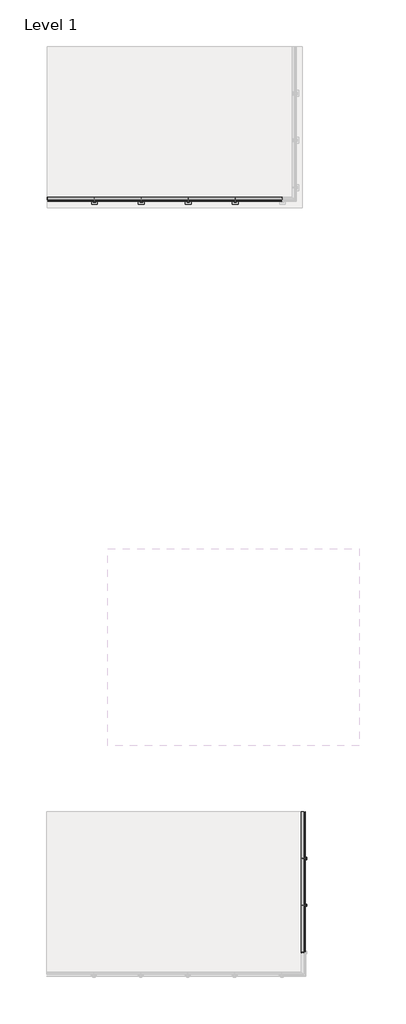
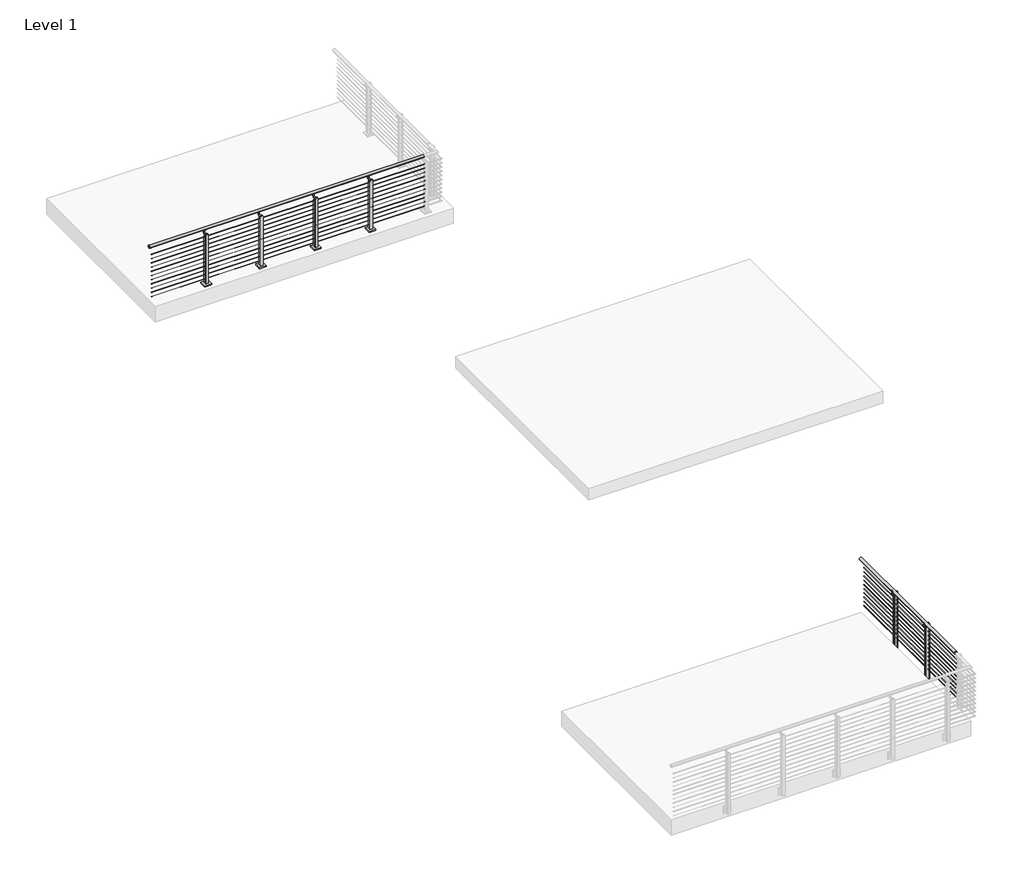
# One storey, part 3 of 9: 2 railings.
"""IFC4 building model written with IfcOpenShell, lengths in millimetres."""

from ifc_helpers import new_model, si_unit, point, frame, frame_2d, origin, origin_with_axes, place, context, project, spatial, polyline, circle_curve, trimmed, segment, composite_curve, outline, extrude, element, save
from ifc_brep_helpers import plane_surface, cylinder_surface, advanced_brep

model = new_model("IFC4")

# Units and contexts
model_context = context("Model", 3, world=origin())
ifc_project = project(units=[si_unit("LENGTHUNIT", "METRE", prefix="MILLI")], contexts=[model_context])

# Site, building, storey
site = spatial("IfcSite", under=ifc_project)
building = spatial("IfcBuilding", under=site)
storey = spatial("IfcBuildingStorey", under=building, Name="Level 1", Elevation=0.0)

# Railings
placement = place(None, origin())
element("IfcRailing", 1, ObjectType="VIVA-TEE-Cable-Fascia Mount-Straight", at=placement, inside=storey, context=model_context, shape_type="SolidModel", body=[
    advanced_brep(
    [(-4918.1482474, -56727.2334719, 1054.1), (-4968.9482474, -56727.2334719, 1054.1), (-4918.1482474, -56717.5042784, 1054.1), (-4968.9482474, -56717.5042784, 1054.1), (-4918.1482474, -53669.5042784, 1054.1), (-4968.9482474, -53669.5042784, 1054.1)],
    [
        (0, 1, circle_curve(frame((-4943.5482474, -56727.2334719, 1054.1), z_axis=(0.0, -1.0, 0.0), x_axis=(-1.0, 0.0, 0.0)), 25.4)),
        (1, 0, circle_curve(frame((-4943.5482474, -56727.2334719, 1054.1), z_axis=(0.0, -1.0, 0.0), x_axis=(-1.0, 0.0, 0.0)), 25.4)),
        (0, 2),
        (2, 3, circle_curve(frame((-4943.5482474, -56717.5042784, 1054.1), z_axis=(0.0, -1.0, 0.0), x_axis=(-1.0, 0.0, 0.0)), 25.4)),
        (3, 1),
        (3, 2, circle_curve(frame((-4943.5482474, -56717.5042784, 1054.1), z_axis=(0.0, -1.0, 0.0), x_axis=(-1.0, 0.0, 0.0)), 25.4)),
        (4, 5, circle_curve(frame((-4943.5482474, -53669.5042784, 1054.1), z_axis=(0.0, 1.0, 0.0), x_axis=(-1.0, 0.0, 0.0)), 25.4)),
        (5, 4, circle_curve(frame((-4943.5482474, -53669.5042784, 1054.1), z_axis=(0.0, 1.0, 0.0), x_axis=(-1.0, 0.0, 0.0)), 25.4)),
        (2, 4),
        (5, 3),
    ],
    [
        plane_surface(frame((-4943.5482474, -56727.2334719, 1079.5), z_axis=(0.0, -1.0, 0.0), x_axis=(0.0, 0.0, 1.0))),
        cylinder_surface(frame((-4943.5482474, -56727.2334719, 1054.1), z_axis=(0.0, -1.0, 0.0), x_axis=(-1.0, 0.0, 0.0)), 25.4),
        plane_surface(frame((-4943.5482474, -53669.5042784, 1079.5), z_axis=(0.0, 1.0, 0.0), x_axis=(0.0, 0.0, 1.0))),
        cylinder_surface(frame((-4943.5482474, -56717.5042784, 1054.1), z_axis=(0.0, -1.0, 0.0), x_axis=(-1.0, 0.0, 0.0)), 25.4),
    ],
    [
        (0, [[1, 2]]),
        (1, [[-1, 3, 4, 5]]),
        (1, [[-2, -5, 6, -3]]),
        (2, [[7, 8]]),
        (3, [[-4, 9, -8, 10]]),
        (3, [[-6, -10, -7, -9]]),
    ],
),
    extrude(outline(composite_curve([segment(trimmed(circle_curve(frame_2d((937.4124, -4882.5882474)), 2.3876), [point((937.4124, -4884.9758474))], [point((937.4124, -4880.2006474))], False, "CARTESIAN"), True, "CONTINUOUS"), segment(trimmed(circle_curve(frame_2d((937.4124, -4882.5882474)), 2.3876), [point((937.4124, -4880.2006474))], [point((937.4124, -4884.9758474))], False, "CARTESIAN"), True, "CONTINUOUS")], self_intersect=False)), frame((0.0, -56717.5042784, 0.0), z_axis=(0.0, 1.0, 0.0), x_axis=(0.0, 0.0, 1.0)), (0.0, 0.0, 1.0), 3048.0),
    extrude(outline(composite_curve([segment(trimmed(circle_curve(frame_2d((854.8624, -4882.5882474)), 2.3876), [point((854.8624, -4884.9758474))], [point((854.8624, -4880.2006474))], False, "CARTESIAN"), True, "CONTINUOUS"), segment(trimmed(circle_curve(frame_2d((854.8624, -4882.5882474)), 2.3876), [point((854.8624, -4880.2006474))], [point((854.8624, -4884.9758474))], False, "CARTESIAN"), True, "CONTINUOUS")], self_intersect=False)), frame((0.0, -56717.5042784, 0.0), z_axis=(0.0, 1.0, 0.0), x_axis=(0.0, 0.0, 1.0)), (0.0, 0.0, 1.0), 3048.0),
    extrude(outline(composite_curve([segment(trimmed(circle_curve(frame_2d((772.3124, -4882.5882474)), 2.3876), [point((772.3124, -4884.9758474))], [point((772.3124, -4880.2006474))], False, "CARTESIAN"), True, "CONTINUOUS"), segment(trimmed(circle_curve(frame_2d((772.3124, -4882.5882474)), 2.3876), [point((772.3124, -4880.2006474))], [point((772.3124, -4884.9758474))], False, "CARTESIAN"), True, "CONTINUOUS")], self_intersect=False)), frame((0.0, -56717.5042784, 0.0), z_axis=(0.0, 1.0, 0.0), x_axis=(0.0, 0.0, 1.0)), (0.0, 0.0, 1.0), 3048.0),
    extrude(outline(composite_curve([segment(trimmed(circle_curve(frame_2d((689.7624, -4882.5882474)), 2.3876), [point((689.7624, -4884.9758474))], [point((689.7624, -4880.2006474))], False, "CARTESIAN"), True, "CONTINUOUS"), segment(trimmed(circle_curve(frame_2d((689.7624, -4882.5882474)), 2.3876), [point((689.7624, -4880.2006474))], [point((689.7624, -4884.9758474))], False, "CARTESIAN"), True, "CONTINUOUS")], self_intersect=False)), frame((0.0, -56717.5042784, 0.0), z_axis=(0.0, 1.0, 0.0), x_axis=(0.0, 0.0, 1.0)), (0.0, 0.0, 1.0), 3048.0),
    extrude(outline(composite_curve([segment(trimmed(circle_curve(frame_2d((607.2124, -4882.5882474)), 2.3876), [point((607.2124, -4884.9758474))], [point((607.2124, -4880.2006474))], False, "CARTESIAN"), True, "CONTINUOUS"), segment(trimmed(circle_curve(frame_2d((607.2124, -4882.5882474)), 2.3876), [point((607.2124, -4880.2006474))], [point((607.2124, -4884.9758474))], False, "CARTESIAN"), True, "CONTINUOUS")], self_intersect=False)), frame((0.0, -56717.5042784, 0.0), z_axis=(0.0, 1.0, 0.0), x_axis=(0.0, 0.0, 1.0)), (0.0, 0.0, 1.0), 3048.0),
    extrude(outline(composite_curve([segment(trimmed(circle_curve(frame_2d((524.6624, -4882.5882474)), 2.3876), [point((524.6624, -4884.9758474))], [point((524.6624, -4880.2006474))], False, "CARTESIAN"), True, "CONTINUOUS"), segment(trimmed(circle_curve(frame_2d((524.6624, -4882.5882474)), 2.3876), [point((524.6624, -4880.2006474))], [point((524.6624, -4884.9758474))], False, "CARTESIAN"), True, "CONTINUOUS")], self_intersect=False)), frame((0.0, -56717.5042784, 0.0), z_axis=(0.0, 1.0, 0.0), x_axis=(0.0, 0.0, 1.0)), (0.0, 0.0, 1.0), 3048.0),
    extrude(outline(composite_curve([segment(trimmed(circle_curve(frame_2d((442.1124, -4882.5882474)), 2.3876), [point((442.1124, -4884.9758474))], [point((442.1124, -4880.2006474))], False, "CARTESIAN"), True, "CONTINUOUS"), segment(trimmed(circle_curve(frame_2d((442.1124, -4882.5882474)), 2.3876), [point((442.1124, -4880.2006474))], [point((442.1124, -4884.9758474))], False, "CARTESIAN"), True, "CONTINUOUS")], self_intersect=False)), frame((0.0, -56717.5042784, 0.0), z_axis=(0.0, 1.0, 0.0), x_axis=(0.0, 0.0, 1.0)), (0.0, 0.0, 1.0), 3048.0),
    extrude(outline(composite_curve([segment(trimmed(circle_curve(frame_2d((359.5624, -4882.5882474)), 2.3876), [point((359.5624, -4884.9758474))], [point((359.5624, -4880.2006474))], False, "CARTESIAN"), True, "CONTINUOUS"), segment(trimmed(circle_curve(frame_2d((359.5624, -4882.5882474)), 2.3876), [point((359.5624, -4880.2006474))], [point((359.5624, -4884.9758474))], False, "CARTESIAN"), True, "CONTINUOUS")], self_intersect=False)), frame((0.0, -56717.5042784, 0.0), z_axis=(0.0, 1.0, 0.0), x_axis=(0.0, 0.0, 1.0)), (0.0, 0.0, 1.0), 3048.0),
    extrude(outline(composite_curve([segment(trimmed(circle_curve(frame_2d((277.0124, -4882.5882474)), 2.3876), [point((277.0124, -4884.9758474))], [point((277.0124, -4880.2006474))], False, "CARTESIAN"), True, "CONTINUOUS"), segment(trimmed(circle_curve(frame_2d((277.0124, -4882.5882474)), 2.3876), [point((277.0124, -4880.2006474))], [point((277.0124, -4884.9758474))], False, "CARTESIAN"), True, "CONTINUOUS")], self_intersect=False)), frame((0.0, -56717.5042784, 0.0), z_axis=(0.0, 1.0, 0.0), x_axis=(0.0, 0.0, 1.0)), (0.0, 0.0, 1.0), 3048.0),
    extrude(outline(composite_curve([segment(trimmed(circle_curve(frame_2d((194.4624, -4882.5882474)), 2.3876), [point((194.4624, -4884.9758474))], [point((194.4624, -4880.2006474))], False, "CARTESIAN"), True, "CONTINUOUS"), segment(trimmed(circle_curve(frame_2d((194.4624, -4882.5882474)), 2.3876), [point((194.4624, -4880.2006474))], [point((194.4624, -4884.9758474))], False, "CARTESIAN"), True, "CONTINUOUS")], self_intersect=False)), frame((0.0, -56717.5042784, 0.0), z_axis=(0.0, 1.0, 0.0), x_axis=(0.0, 0.0, 1.0)), (0.0, 0.0, 1.0), 3048.0),
    extrude(outline(composite_curve([segment(trimmed(circle_curve(frame_2d((111.9124, -4882.5882474)), 2.3876), [point((111.9124, -4884.9758474))], [point((111.9124, -4880.2006474))], False, "CARTESIAN"), True, "CONTINUOUS"), segment(trimmed(circle_curve(frame_2d((111.9124, -4882.5882474)), 2.3876), [point((111.9124, -4880.2006474))], [point((111.9124, -4884.9758474))], False, "CARTESIAN"), True, "CONTINUOUS")], self_intersect=False)), frame((0.0, -56717.5042784, 0.0), z_axis=(0.0, 1.0, 0.0), x_axis=(0.0, 0.0, 1.0)), (0.0, 0.0, 1.0), 3048.0),
    extrude(outline(composite_curve([segment(trimmed(circle_curve(frame_2d((0.0, 7.0)), 7.0), [point((0.0, 14.0))], [point((0.0, 0.0))], False, "CARTESIAN"), True, "CONTINUOUS"), segment(trimmed(circle_curve(frame_2d((0.0, 7.0)), 7.0), [point((0.0, 0.0))], [point((0.0, 14.0))], False, "CARTESIAN"), True, "CONTINUOUS")], self_intersect=False)), frame((-4936.2033936, -54685.4305685, 949.1832524), z_axis=(0.0, 0.004253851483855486, 0.9999909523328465), x_axis=(0.0, 0.9999909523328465, -0.004253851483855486)), (0.0, 0.0, 1.0), 75.97),
    extrude(outline(composite_curve([segment(trimmed(circle_curve(frame_2d((1047.2025651, -4943.3447976)), 19.05), [point((1033.7916463, -4929.8152094))], [point((1033.7916463, -4956.8743858))], True, "CARTESIAN"), True, "CONTINUOUS"), segment(polyline([(1033.7916463, -4956.8743858), (1032.7742593, -4957.9007754)]), True, "CONTINUOUS"), segment(trimmed(circle_curve(frame_2d((1031.7089374, -4956.8447976)), 1.5), [point((1032.7742593, -4957.9007754))], [point((1030.5780156, -4957.8301991))], False, "CARTESIAN"), True, "CONTINUOUS"), segment(trimmed(circle_curve(frame_2d((1047.2025651, -4943.3447976)), 22.05), [point((1030.5780156, -4957.8301991))], [point((1030.5780156, -4928.8593961))], False, "CARTESIAN"), True, "CONTINUOUS"), segment(trimmed(circle_curve(frame_2d((1031.7089374, -4929.8447976)), 1.5), [point((1030.5780156, -4928.8593961))], [point((1032.7742593, -4928.7888197))], False, "CARTESIAN"), True, "CONTINUOUS"), segment(polyline([(1032.7742593, -4928.7888197), (1033.7916463, -4929.8152094)]), True, "CONTINUOUS")], self_intersect=False)), frame((0.0, -54720.9690427, 0.0), z_axis=(0.0, 1.0, 0.0), x_axis=(0.0, 0.0, 1.0)), (0.0, 0.0, 1.0), 74.5229187),
    extrude(outline(composite_curve([segment(trimmed(circle_curve(frame_2d((-54685.226238, 976.1259188)), 12.5), [point((-54697.726238, 976.1259188))], [point((-54672.726238, 976.1259188))], False, "CARTESIAN"), True, "CONTINUOUS"), segment(trimmed(circle_curve(frame_2d((-54685.226238, 976.1259188)), 12.5), [point((-54672.726238, 976.1259188))], [point((-54697.726238, 976.1259188))], False, "CARTESIAN"), True, "CONTINUOUS")], self_intersect=False)), frame((-4955.8604076, 0.0, 0.0), z_axis=(1.0, 0.0, 0.0), x_axis=(0.0, 1.0, 0.0)), (0.0, 0.0, 1.0), 92.423),
    extrude(outline(polyline([(-4933.3882474, -54621.6074034), (-4920.5057958, -54621.6074034), (-4920.5057958, -54748.6074034), (-4933.3882474, -54748.6074034), (-4933.3882474, -54621.6074034)])), frame((0.0, 0.0, -196.85), z_axis=(0.0, 0.0, 1.0), x_axis=(1.0, 0.0, 0.0)), (0.0, 0.0, 1.0), 127.0),
    extrude(outline(composite_curve([segment(trimmed(circle_curve(frame_2d((924.2425, -4889.6036989)), 24.765), [point((949.0075, -4889.6036989))], [point((924.2425, -4914.3686989))], False, "CARTESIAN"), True, "CONTINUOUS"), segment(polyline([(924.2425, -4914.3686989), (-196.85, -4914.3686989), (-196.85, -4863.5382474), (949.0075, -4863.5382474), (949.0075, -4889.6036989)]), True, "CONTINUOUS")], self_intersect=False)), frame((0.0, -54671.1039038, 0.0), z_axis=(0.0, 1.0, 0.0), x_axis=(0.0, 0.0, 1.0)), (0.0, 0.0, 1.0), 9.525),
    extrude(outline(polyline([(-4920.5057958, -54680.3449034), (-4920.5057958, -54621.6074034), (-4912.5682958, -54621.6074034), (-4912.5682958, -54672.4074034), (-4863.5382474, -54672.4074034), (-4863.5382474, -54680.3449034), (-4920.5057958, -54680.3449034)])), frame((0.0, 0.0, -196.85), z_axis=(0.0, 0.0, 1.0), x_axis=(1.0, 0.0, 0.0)), (0.0, 0.0, 1.0), 127.0),
    extrude(outline(polyline([(-4920.5057958, -54689.8699034), (-4863.5382474, -54689.8699034), (-4863.5382474, -54697.8074034), (-4912.5682958, -54697.8074034), (-4912.5682958, -54748.6074034), (-4920.5057958, -54748.6074034), (-4920.5057958, -54689.8699034)])), frame((0.0, 0.0, -196.85), z_axis=(0.0, 0.0, 1.0), x_axis=(1.0, 0.0, 0.0)), (0.0, 0.0, 1.0), 127.0),
    extrude(outline(composite_curve([segment(polyline([(-54659.7074034, -196.85), (-54710.5074034, -196.85), (-54710.5074034, 979.17)]), True, "CONTINUOUS"), segment(trimmed(circle_curve(frame_2d((-54685.1074034, 979.17)), 25.4), [point((-54710.5074034, 979.17))], [point((-54659.7074034, 979.17))], False, "CARTESIAN"), True, "CONTINUOUS"), segment(polyline([(-54659.7074034, 979.17), (-54659.7074034, -196.85)]), True, "CONTINUOUS")], self_intersect=False)), frame((-4863.5382474, 0.0, 0.0), z_axis=(1.0, 0.0, 0.0), x_axis=(0.0, 1.0, 0.0)), (0.0, 0.0, 1.0), 9.525),
    extrude(outline(composite_curve([segment(trimmed(circle_curve(frame_2d((924.2425, -4889.6036989)), 24.765), [point((949.0075, -4889.6036989))], [point((924.2425, -4914.3686989))], False, "CARTESIAN"), True, "CONTINUOUS"), segment(polyline([(924.2425, -4914.3686989), (-196.85, -4914.3686989), (-196.85, -4863.5382474), (949.0075, -4863.5382474), (949.0075, -4889.6036989)]), True, "CONTINUOUS")], self_intersect=False)), frame((0.0, -54708.635903, 0.0), z_axis=(0.0, 1.0, 0.0), x_axis=(0.0, 0.0, 1.0)), (0.0, 0.0, 1.0), 9.525),
    extrude(outline(composite_curve([segment(trimmed(circle_curve(frame_2d((0.0, 7.0)), 7.0), [point((0.0, 14.0))], [point((0.0, 0.0))], False, "CARTESIAN"), True, "CONTINUOUS"), segment(trimmed(circle_curve(frame_2d((0.0, 7.0)), 7.0), [point((0.0, 0.0))], [point((0.0, 14.0))], False, "CARTESIAN"), True, "CONTINUOUS")], self_intersect=False)), frame((-4936.2033936, -55701.4305685, 949.1832524), z_axis=(0.0, 0.004253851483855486, 0.9999909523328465), x_axis=(0.0, 0.9999909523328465, -0.004253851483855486)), (0.0, 0.0, 1.0), 75.97),
    extrude(outline(composite_curve([segment(trimmed(circle_curve(frame_2d((1047.2025651, -4943.3447976)), 19.05), [point((1033.7916463, -4929.8152094))], [point((1033.7916463, -4956.8743858))], True, "CARTESIAN"), True, "CONTINUOUS"), segment(polyline([(1033.7916463, -4956.8743858), (1032.7742593, -4957.9007754)]), True, "CONTINUOUS"), segment(trimmed(circle_curve(frame_2d((1031.7089374, -4956.8447976)), 1.5), [point((1032.7742593, -4957.9007754))], [point((1030.5780156, -4957.8301991))], False, "CARTESIAN"), True, "CONTINUOUS"), segment(trimmed(circle_curve(frame_2d((1047.2025651, -4943.3447976)), 22.05), [point((1030.5780156, -4957.8301991))], [point((1030.5780156, -4928.8593961))], False, "CARTESIAN"), True, "CONTINUOUS"), segment(trimmed(circle_curve(frame_2d((1031.7089374, -4929.8447976)), 1.5), [point((1030.5780156, -4928.8593961))], [point((1032.7742593, -4928.7888197))], False, "CARTESIAN"), True, "CONTINUOUS"), segment(polyline([(1032.7742593, -4928.7888197), (1033.7916463, -4929.8152094)]), True, "CONTINUOUS")], self_intersect=False)), frame((0.0, -55736.9690427, 0.0), z_axis=(0.0, 1.0, 0.0), x_axis=(0.0, 0.0, 1.0)), (0.0, 0.0, 1.0), 74.5229187),
    extrude(outline(composite_curve([segment(trimmed(circle_curve(frame_2d((-55701.226238, 976.1259188)), 12.5), [point((-55713.726238, 976.1259188))], [point((-55688.726238, 976.1259188))], False, "CARTESIAN"), True, "CONTINUOUS"), segment(trimmed(circle_curve(frame_2d((-55701.226238, 976.1259188)), 12.5), [point((-55688.726238, 976.1259188))], [point((-55713.726238, 976.1259188))], False, "CARTESIAN"), True, "CONTINUOUS")], self_intersect=False)), frame((-4955.8604076, 0.0, 0.0), z_axis=(1.0, 0.0, 0.0), x_axis=(0.0, 1.0, 0.0)), (0.0, 0.0, 1.0), 92.423),
    extrude(outline(polyline([(-4933.3882474, -55637.6074034), (-4920.5057958, -55637.6074034), (-4920.5057958, -55764.6074034), (-4933.3882474, -55764.6074034), (-4933.3882474, -55637.6074034)])), frame((0.0, 0.0, -196.85), z_axis=(0.0, 0.0, 1.0), x_axis=(1.0, 0.0, 0.0)), (0.0, 0.0, 1.0), 127.0),
    extrude(outline(composite_curve([segment(trimmed(circle_curve(frame_2d((924.2425, -4889.6036989)), 24.765), [point((949.0075, -4889.6036989))], [point((924.2425, -4914.3686989))], False, "CARTESIAN"), True, "CONTINUOUS"), segment(polyline([(924.2425, -4914.3686989), (-196.85, -4914.3686989), (-196.85, -4863.5382474), (949.0075, -4863.5382474), (949.0075, -4889.6036989)]), True, "CONTINUOUS")], self_intersect=False)), frame((0.0, -55687.1039038, 0.0), z_axis=(0.0, 1.0, 0.0), x_axis=(0.0, 0.0, 1.0)), (0.0, 0.0, 1.0), 9.525),
    extrude(outline(polyline([(-4920.5057958, -55696.3449034), (-4920.5057958, -55637.6074034), (-4912.5682958, -55637.6074034), (-4912.5682958, -55688.4074034), (-4863.5382474, -55688.4074034), (-4863.5382474, -55696.3449034), (-4920.5057958, -55696.3449034)])), frame((0.0, 0.0, -196.85), z_axis=(0.0, 0.0, 1.0), x_axis=(1.0, 0.0, 0.0)), (0.0, 0.0, 1.0), 127.0),
    extrude(outline(polyline([(-4920.5057958, -55705.8699034), (-4863.5382474, -55705.8699034), (-4863.5382474, -55713.8074034), (-4912.5682958, -55713.8074034), (-4912.5682958, -55764.6074034), (-4920.5057958, -55764.6074034), (-4920.5057958, -55705.8699034)])), frame((0.0, 0.0, -196.85), z_axis=(0.0, 0.0, 1.0), x_axis=(1.0, 0.0, 0.0)), (0.0, 0.0, 1.0), 127.0),
    extrude(outline(composite_curve([segment(polyline([(-55675.7074034, -196.85), (-55726.5074034, -196.85), (-55726.5074034, 979.17)]), True, "CONTINUOUS"), segment(trimmed(circle_curve(frame_2d((-55701.1074034, 979.17)), 25.4), [point((-55726.5074034, 979.17))], [point((-55675.7074034, 979.17))], False, "CARTESIAN"), True, "CONTINUOUS"), segment(polyline([(-55675.7074034, 979.17), (-55675.7074034, -196.85)]), True, "CONTINUOUS")], self_intersect=False)), frame((-4863.5382474, 0.0, 0.0), z_axis=(1.0, 0.0, 0.0), x_axis=(0.0, 1.0, 0.0)), (0.0, 0.0, 1.0), 9.525),
    extrude(outline(composite_curve([segment(trimmed(circle_curve(frame_2d((924.2425, -4889.6036989)), 24.765), [point((949.0075, -4889.6036989))], [point((924.2425, -4914.3686989))], False, "CARTESIAN"), True, "CONTINUOUS"), segment(polyline([(924.2425, -4914.3686989), (-196.85, -4914.3686989), (-196.85, -4863.5382474), (949.0075, -4863.5382474), (949.0075, -4889.6036989)]), True, "CONTINUOUS")], self_intersect=False)), frame((0.0, -55724.635903, 0.0), z_axis=(0.0, 1.0, 0.0), x_axis=(0.0, 0.0, 1.0)), (0.0, 0.0, 1.0), 9.525),
])
element("IfcRailing", 2, ObjectType="VIVA-TEE-Cable-Floor Mount-Straight", at=placement, inside=storey, context=model_context, shape_type="SolidModel", body=[
    advanced_brep(
    [(-5386.7436688, -40409.6476373, 1054.1), (-5386.7436688, -40358.8476373, 1054.1), (-10466.7436688, -40358.8476373, 1054.1), (-10466.7436688, -40409.6476373, 1054.1), (-10476.4728622, -40409.6476373, 1054.1), (-10476.4728622, -40358.8476373, 1054.1)],
    [
        (0, 1, circle_curve(frame((-5386.7436688, -40384.2476373, 1054.1), z_axis=(1.0, 0.0, 0.0), x_axis=(0.0, 1.0, 0.0)), 25.4)),
        (1, 0, circle_curve(frame((-5386.7436688, -40384.2476373, 1054.1), z_axis=(1.0, 0.0, 0.0), x_axis=(0.0, 1.0, 0.0)), 25.4)),
        (2, 3, circle_curve(frame((-10466.7436688, -40384.2476373, 1054.1), z_axis=(1.0, 0.0, 0.0), x_axis=(0.0, 1.0, 0.0)), 25.4)),
        (3, 0),
        (1, 2),
        (3, 2, circle_curve(frame((-10466.7436688, -40384.2476373, 1054.1), z_axis=(1.0, 0.0, 0.0), x_axis=(0.0, 1.0, 0.0)), 25.4)),
        (4, 5, circle_curve(frame((-10476.4728622, -40384.2476373, 1054.1), z_axis=(-1.0, 0.0, 0.0), x_axis=(0.0, 1.0, 0.0)), 25.4)),
        (5, 4, circle_curve(frame((-10476.4728622, -40384.2476373, 1054.1), z_axis=(-1.0, 0.0, 0.0), x_axis=(0.0, 1.0, 0.0)), 25.4)),
        (4, 3),
        (2, 5),
    ],
    [
        plane_surface(frame((-5386.7436688, -40384.2476373, 1079.5), z_axis=(1.0, 0.0, 0.0), x_axis=(0.0, 1.0, 0.0))),
        cylinder_surface(frame((-10466.7436688, -40384.2476373, 1054.1), z_axis=(-1.0, 0.0, 0.0), x_axis=(0.0, 1.0, 0.0)), 25.4),
        plane_surface(frame((-10476.4728622, -40384.2476373, 1079.5), z_axis=(-1.0, 0.0, 0.0), x_axis=(0.0, 1.0, 0.0))),
        cylinder_surface(frame((-10476.4728622, -40384.2476373, 1054.1), z_axis=(-1.0, 0.0, 0.0), x_axis=(0.0, 1.0, 0.0)), 25.4),
    ],
    [
        (0, [[1, 2]]),
        (1, [[3, 4, -2, 5]]),
        (1, [[6, -5, -1, -4]]),
        (2, [[7, 8]]),
        (3, [[-7, 9, -3, 10]]),
        (3, [[-8, -10, -6, -9]]),
    ],
),
    extrude(outline(composite_curve([segment(trimmed(circle_curve(frame_2d((-40444.5726373, 937.4124)), 2.3876), [point((-40442.1850373, 937.4124))], [point((-40446.9602373, 937.4124))], False, "CARTESIAN"), True, "CONTINUOUS"), segment(trimmed(circle_curve(frame_2d((-40444.5726373, 937.4124)), 2.3876), [point((-40446.9602373, 937.4124))], [point((-40442.1850373, 937.4124))], False, "CARTESIAN"), True, "CONTINUOUS")], self_intersect=False)), frame((-10466.7436688, 0.0, 0.0), z_axis=(1.0, 0.0, 0.0), x_axis=(0.0, 1.0, 0.0)), (0.0, 0.0, 1.0), 5080.0),
    extrude(outline(composite_curve([segment(trimmed(circle_curve(frame_2d((-40444.5726373, 854.8624)), 2.3876), [point((-40442.1850373, 854.8624))], [point((-40446.9602373, 854.8624))], False, "CARTESIAN"), True, "CONTINUOUS"), segment(trimmed(circle_curve(frame_2d((-40444.5726373, 854.8624)), 2.3876), [point((-40446.9602373, 854.8624))], [point((-40442.1850373, 854.8624))], False, "CARTESIAN"), True, "CONTINUOUS")], self_intersect=False)), frame((-10466.7436688, 0.0, 0.0), z_axis=(1.0, 0.0, 0.0), x_axis=(0.0, 1.0, 0.0)), (0.0, 0.0, 1.0), 5080.0),
    extrude(outline(composite_curve([segment(trimmed(circle_curve(frame_2d((-40444.5726373, 772.3124)), 2.3876), [point((-40442.1850373, 772.3124))], [point((-40446.9602373, 772.3124))], False, "CARTESIAN"), True, "CONTINUOUS"), segment(trimmed(circle_curve(frame_2d((-40444.5726373, 772.3124)), 2.3876), [point((-40446.9602373, 772.3124))], [point((-40442.1850373, 772.3124))], False, "CARTESIAN"), True, "CONTINUOUS")], self_intersect=False)), frame((-10466.7436688, 0.0, 0.0), z_axis=(1.0, 0.0, 0.0), x_axis=(0.0, 1.0, 0.0)), (0.0, 0.0, 1.0), 5080.0),
    extrude(outline(composite_curve([segment(trimmed(circle_curve(frame_2d((-40444.5726373, 689.7624)), 2.3876), [point((-40442.1850373, 689.7624))], [point((-40446.9602373, 689.7624))], False, "CARTESIAN"), True, "CONTINUOUS"), segment(trimmed(circle_curve(frame_2d((-40444.5726373, 689.7624)), 2.3876), [point((-40446.9602373, 689.7624))], [point((-40442.1850373, 689.7624))], False, "CARTESIAN"), True, "CONTINUOUS")], self_intersect=False)), frame((-10466.7436688, 0.0, 0.0), z_axis=(1.0, 0.0, 0.0), x_axis=(0.0, 1.0, 0.0)), (0.0, 0.0, 1.0), 5080.0),
    extrude(outline(composite_curve([segment(trimmed(circle_curve(frame_2d((-40444.5726373, 607.2124)), 2.3876), [point((-40442.1850373, 607.2124))], [point((-40446.9602373, 607.2124))], False, "CARTESIAN"), True, "CONTINUOUS"), segment(trimmed(circle_curve(frame_2d((-40444.5726373, 607.2124)), 2.3876), [point((-40446.9602373, 607.2124))], [point((-40442.1850373, 607.2124))], False, "CARTESIAN"), True, "CONTINUOUS")], self_intersect=False)), frame((-10466.7436688, 0.0, 0.0), z_axis=(1.0, 0.0, 0.0), x_axis=(0.0, 1.0, 0.0)), (0.0, 0.0, 1.0), 5080.0),
    extrude(outline(composite_curve([segment(trimmed(circle_curve(frame_2d((-40444.5726373, 524.6624)), 2.3876), [point((-40442.1850373, 524.6624))], [point((-40446.9602373, 524.6624))], False, "CARTESIAN"), True, "CONTINUOUS"), segment(trimmed(circle_curve(frame_2d((-40444.5726373, 524.6624)), 2.3876), [point((-40446.9602373, 524.6624))], [point((-40442.1850373, 524.6624))], False, "CARTESIAN"), True, "CONTINUOUS")], self_intersect=False)), frame((-10466.7436688, 0.0, 0.0), z_axis=(1.0, 0.0, 0.0), x_axis=(0.0, 1.0, 0.0)), (0.0, 0.0, 1.0), 5080.0),
    extrude(outline(composite_curve([segment(trimmed(circle_curve(frame_2d((-40444.5726373, 442.1124)), 2.3876), [point((-40442.1850373, 442.1124))], [point((-40446.9602373, 442.1124))], False, "CARTESIAN"), True, "CONTINUOUS"), segment(trimmed(circle_curve(frame_2d((-40444.5726373, 442.1124)), 2.3876), [point((-40446.9602373, 442.1124))], [point((-40442.1850373, 442.1124))], False, "CARTESIAN"), True, "CONTINUOUS")], self_intersect=False)), frame((-10466.7436688, 0.0, 0.0), z_axis=(1.0, 0.0, 0.0), x_axis=(0.0, 1.0, 0.0)), (0.0, 0.0, 1.0), 5080.0),
    extrude(outline(composite_curve([segment(trimmed(circle_curve(frame_2d((-40444.5726373, 359.5624)), 2.3876), [point((-40442.1850373, 359.5624))], [point((-40446.9602373, 359.5624))], False, "CARTESIAN"), True, "CONTINUOUS"), segment(trimmed(circle_curve(frame_2d((-40444.5726373, 359.5624)), 2.3876), [point((-40446.9602373, 359.5624))], [point((-40442.1850373, 359.5624))], False, "CARTESIAN"), True, "CONTINUOUS")], self_intersect=False)), frame((-10466.7436688, 0.0, 0.0), z_axis=(1.0, 0.0, 0.0), x_axis=(0.0, 1.0, 0.0)), (0.0, 0.0, 1.0), 5080.0),
    extrude(outline(composite_curve([segment(trimmed(circle_curve(frame_2d((-40444.5726373, 277.0124)), 2.3876), [point((-40442.1850373, 277.0124))], [point((-40446.9602373, 277.0124))], False, "CARTESIAN"), True, "CONTINUOUS"), segment(trimmed(circle_curve(frame_2d((-40444.5726373, 277.0124)), 2.3876), [point((-40446.9602373, 277.0124))], [point((-40442.1850373, 277.0124))], False, "CARTESIAN"), True, "CONTINUOUS")], self_intersect=False)), frame((-10466.7436688, 0.0, 0.0), z_axis=(1.0, 0.0, 0.0), x_axis=(0.0, 1.0, 0.0)), (0.0, 0.0, 1.0), 5080.0),
    extrude(outline(composite_curve([segment(trimmed(circle_curve(frame_2d((-40444.5726373, 194.4624)), 2.3876), [point((-40442.1850373, 194.4624))], [point((-40446.9602373, 194.4624))], False, "CARTESIAN"), True, "CONTINUOUS"), segment(trimmed(circle_curve(frame_2d((-40444.5726373, 194.4624)), 2.3876), [point((-40446.9602373, 194.4624))], [point((-40442.1850373, 194.4624))], False, "CARTESIAN"), True, "CONTINUOUS")], self_intersect=False)), frame((-10466.7436688, 0.0, 0.0), z_axis=(1.0, 0.0, 0.0), x_axis=(0.0, 1.0, 0.0)), (0.0, 0.0, 1.0), 5080.0),
    extrude(outline(composite_curve([segment(trimmed(circle_curve(frame_2d((-40444.5726373, 111.9124)), 2.3876), [point((-40442.1850373, 111.9124))], [point((-40446.9602373, 111.9124))], False, "CARTESIAN"), True, "CONTINUOUS"), segment(trimmed(circle_curve(frame_2d((-40444.5726373, 111.9124)), 2.3876), [point((-40446.9602373, 111.9124))], [point((-40442.1850373, 111.9124))], False, "CARTESIAN"), True, "CONTINUOUS")], self_intersect=False)), frame((-10466.7436688, 0.0, 0.0), z_axis=(1.0, 0.0, 0.0), x_axis=(0.0, 1.0, 0.0)), (0.0, 0.0, 1.0), 5080.0),
    extrude(outline(composite_curve([segment(trimmed(circle_curve(frame_2d((0.0, 7.0)), 7.0), [point((0.0, 14.0))], [point((0.0, 0.0))], False, "CARTESIAN"), True, "CONTINUOUS"), segment(trimmed(circle_curve(frame_2d((0.0, 7.0)), 7.0), [point((0.0, 0.0))], [point((0.0, 14.0))], False, "CARTESIAN"), True, "CONTINUOUS")], self_intersect=False)), frame((-6402.6699589, -40390.9574911, 949.1832524), z_axis=(0.004253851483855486, 0.0, 0.9999909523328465), x_axis=(0.9999909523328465, 0.0, -0.004253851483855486)), (0.0, 0.0, 1.0), 75.97),
    extrude(outline(composite_curve([segment(trimmed(circle_curve(frame_2d((-40383.8160871, 1047.2025651)), 19.05), [point((-40397.3456753, 1033.7916463))], [point((-40370.2864988, 1033.7916463))], True, "CARTESIAN"), True, "CONTINUOUS"), segment(polyline([(-40370.2864988, 1033.7916463), (-40369.2601092, 1032.7742593)]), True, "CONTINUOUS"), segment(trimmed(circle_curve(frame_2d((-40370.3160871, 1031.7089374)), 1.5), [point((-40369.2601092, 1032.7742593))], [point((-40369.3306856, 1030.5780156))], False, "CARTESIAN"), True, "CONTINUOUS"), segment(trimmed(circle_curve(frame_2d((-40383.8160871, 1047.2025651)), 22.05), [point((-40369.3306856, 1030.5780156))], [point((-40398.3014885, 1030.5780156))], False, "CARTESIAN"), True, "CONTINUOUS"), segment(trimmed(circle_curve(frame_2d((-40397.3160871, 1031.7089374)), 1.5), [point((-40398.3014885, 1030.5780156))], [point((-40398.3720649, 1032.7742593))], False, "CARTESIAN"), True, "CONTINUOUS"), segment(polyline([(-40398.3720649, 1032.7742593), (-40397.3456753, 1033.7916463)]), True, "CONTINUOUS")], self_intersect=False)), frame((-6438.208433, 0.0, 0.0), z_axis=(1.0, 0.0, 0.0), x_axis=(0.0, 1.0, 0.0)), (0.0, 0.0, 1.0), 74.5229187),
    extrude(outline(composite_curve([segment(trimmed(circle_curve(frame_2d((976.1259188, -6402.4656284)), 12.5), [point((976.1259188, -6414.9656284))], [point((976.1259188, -6389.9656284))], False, "CARTESIAN"), True, "CONTINUOUS"), segment(trimmed(circle_curve(frame_2d((976.1259188, -6402.4656284)), 12.5), [point((976.1259188, -6389.9656284))], [point((976.1259188, -6414.9656284))], False, "CARTESIAN"), True, "CONTINUOUS")], self_intersect=False)), frame((0.0, -40463.723477, 0.0), z_axis=(0.0, 1.0, 0.0), x_axis=(0.0, 0.0, 1.0)), (0.0, 0.0, 1.0), 92.423),
    extrude(outline(polyline([(-6338.8467938, -40381.0726373), (-6338.8467938, -40508.0726373), (-6465.8467938, -40508.0726373), (-6465.8467938, -40381.0726373), (-6338.8467938, -40381.0726373)])), origin_with_axes(), (0.0, 0.0, 1.0), 25.4),
    extrude(outline(composite_curve([segment(trimmed(circle_curve(frame_2d((-40437.5571858, 924.2425)), 24.765), [point((-40437.5571858, 949.0075))], [point((-40412.7921858, 924.2425))], False, "CARTESIAN"), True, "CONTINUOUS"), segment(polyline([(-40412.7921858, 924.2425), (-40412.7921858, 25.4), (-40463.6226373, 25.4), (-40463.6226373, 949.0075), (-40437.5571858, 949.0075)]), True, "CONTINUOUS")], self_intersect=False)), frame((-6388.3432942, 0.0, 0.0), z_axis=(1.0, 0.0, 0.0), x_axis=(0.0, 1.0, 0.0)), (0.0, 0.0, 1.0), 9.525),
    extrude(outline(composite_curve([segment(polyline([(25.4, -6376.9467938), (979.17, -6376.9467938)]), True, "CONTINUOUS"), segment(trimmed(circle_curve(frame_2d((979.17, -6402.3467938)), 25.4), [point((979.17, -6376.9467938))], [point((979.17, -6427.7467938))], False, "CARTESIAN"), True, "CONTINUOUS"), segment(polyline([(979.17, -6427.7467938), (25.4, -6427.7467938), (25.4, -6376.9467938)]), True, "CONTINUOUS")], self_intersect=False)), frame((0.0, -40473.1476373, 0.0), z_axis=(0.0, 1.0, 0.0), x_axis=(0.0, 0.0, 1.0)), (0.0, 0.0, 1.0), 9.525),
    extrude(outline(composite_curve([segment(trimmed(circle_curve(frame_2d((-40437.5571858, 924.2425)), 24.765), [point((-40437.5571858, 949.0075))], [point((-40412.7921858, 924.2425))], False, "CARTESIAN"), True, "CONTINUOUS"), segment(polyline([(-40412.7921858, 924.2425), (-40412.7921858, 25.4), (-40463.6226373, 25.4), (-40463.6226373, 949.0075), (-40437.5571858, 949.0075)]), True, "CONTINUOUS")], self_intersect=False)), frame((-6425.8752933, 0.0, 0.0), z_axis=(1.0, 0.0, 0.0), x_axis=(0.0, 1.0, 0.0)), (0.0, 0.0, 1.0), 9.525),
    extrude(outline(composite_curve([segment(trimmed(circle_curve(frame_2d((0.0, 7.0)), 7.0), [point((0.0, 14.0))], [point((0.0, 0.0))], False, "CARTESIAN"), True, "CONTINUOUS"), segment(trimmed(circle_curve(frame_2d((0.0, 7.0)), 7.0), [point((0.0, 0.0))], [point((0.0, 14.0))], False, "CARTESIAN"), True, "CONTINUOUS")], self_intersect=False)), frame((-7418.6699589, -40390.9574911, 949.1832524), z_axis=(0.004253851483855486, 0.0, 0.9999909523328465), x_axis=(0.9999909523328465, 0.0, -0.004253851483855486)), (0.0, 0.0, 1.0), 75.97),
    extrude(outline(composite_curve([segment(trimmed(circle_curve(frame_2d((-40383.8160871, 1047.2025651)), 19.05), [point((-40397.3456753, 1033.7916463))], [point((-40370.2864988, 1033.7916463))], True, "CARTESIAN"), True, "CONTINUOUS"), segment(polyline([(-40370.2864988, 1033.7916463), (-40369.2601092, 1032.7742593)]), True, "CONTINUOUS"), segment(trimmed(circle_curve(frame_2d((-40370.3160871, 1031.7089374)), 1.5), [point((-40369.2601092, 1032.7742593))], [point((-40369.3306856, 1030.5780156))], False, "CARTESIAN"), True, "CONTINUOUS"), segment(trimmed(circle_curve(frame_2d((-40383.8160871, 1047.2025651)), 22.05), [point((-40369.3306856, 1030.5780156))], [point((-40398.3014885, 1030.5780156))], False, "CARTESIAN"), True, "CONTINUOUS"), segment(trimmed(circle_curve(frame_2d((-40397.3160871, 1031.7089374)), 1.5), [point((-40398.3014885, 1030.5780156))], [point((-40398.3720649, 1032.7742593))], False, "CARTESIAN"), True, "CONTINUOUS"), segment(polyline([(-40398.3720649, 1032.7742593), (-40397.3456753, 1033.7916463)]), True, "CONTINUOUS")], self_intersect=False)), frame((-7454.208433, 0.0, 0.0), z_axis=(1.0, 0.0, 0.0), x_axis=(0.0, 1.0, 0.0)), (0.0, 0.0, 1.0), 74.5229187),
    extrude(outline(composite_curve([segment(trimmed(circle_curve(frame_2d((976.1259188, -7418.4656284)), 12.5), [point((976.1259188, -7430.9656284))], [point((976.1259188, -7405.9656284))], False, "CARTESIAN"), True, "CONTINUOUS"), segment(trimmed(circle_curve(frame_2d((976.1259188, -7418.4656284)), 12.5), [point((976.1259188, -7405.9656284))], [point((976.1259188, -7430.9656284))], False, "CARTESIAN"), True, "CONTINUOUS")], self_intersect=False)), frame((0.0, -40463.723477, 0.0), z_axis=(0.0, 1.0, 0.0), x_axis=(0.0, 0.0, 1.0)), (0.0, 0.0, 1.0), 92.423),
    extrude(outline(polyline([(-7354.8467938, -40381.0726373), (-7354.8467938, -40508.0726373), (-7481.8467938, -40508.0726373), (-7481.8467938, -40381.0726373), (-7354.8467938, -40381.0726373)])), origin_with_axes(), (0.0, 0.0, 1.0), 25.4),
    extrude(outline(composite_curve([segment(trimmed(circle_curve(frame_2d((-40437.5571858, 924.2425)), 24.765), [point((-40437.5571858, 949.0075))], [point((-40412.7921858, 924.2425))], False, "CARTESIAN"), True, "CONTINUOUS"), segment(polyline([(-40412.7921858, 924.2425), (-40412.7921858, 25.4), (-40463.6226373, 25.4), (-40463.6226373, 949.0075), (-40437.5571858, 949.0075)]), True, "CONTINUOUS")], self_intersect=False)), frame((-7404.3432942, 0.0, 0.0), z_axis=(1.0, 0.0, 0.0), x_axis=(0.0, 1.0, 0.0)), (0.0, 0.0, 1.0), 9.525),
    extrude(outline(composite_curve([segment(polyline([(25.4, -7392.9467938), (979.17, -7392.9467938)]), True, "CONTINUOUS"), segment(trimmed(circle_curve(frame_2d((979.17, -7418.3467938)), 25.4), [point((979.17, -7392.9467938))], [point((979.17, -7443.7467938))], False, "CARTESIAN"), True, "CONTINUOUS"), segment(polyline([(979.17, -7443.7467938), (25.4, -7443.7467938), (25.4, -7392.9467938)]), True, "CONTINUOUS")], self_intersect=False)), frame((0.0, -40473.1476373, 0.0), z_axis=(0.0, 1.0, 0.0), x_axis=(0.0, 0.0, 1.0)), (0.0, 0.0, 1.0), 9.525),
    extrude(outline(composite_curve([segment(trimmed(circle_curve(frame_2d((-40437.5571858, 924.2425)), 24.765), [point((-40437.5571858, 949.0075))], [point((-40412.7921858, 924.2425))], False, "CARTESIAN"), True, "CONTINUOUS"), segment(polyline([(-40412.7921858, 924.2425), (-40412.7921858, 25.4), (-40463.6226373, 25.4), (-40463.6226373, 949.0075), (-40437.5571858, 949.0075)]), True, "CONTINUOUS")], self_intersect=False)), frame((-7441.8752933, 0.0, 0.0), z_axis=(1.0, 0.0, 0.0), x_axis=(0.0, 1.0, 0.0)), (0.0, 0.0, 1.0), 9.525),
    extrude(outline(composite_curve([segment(trimmed(circle_curve(frame_2d((0.0, 7.0)), 7.0), [point((0.0, 14.0))], [point((0.0, 0.0))], False, "CARTESIAN"), True, "CONTINUOUS"), segment(trimmed(circle_curve(frame_2d((0.0, 7.0)), 7.0), [point((0.0, 0.0))], [point((0.0, 14.0))], False, "CARTESIAN"), True, "CONTINUOUS")], self_intersect=False)), frame((-8434.6699589, -40390.9574911, 949.1832524), z_axis=(0.004253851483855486, 0.0, 0.9999909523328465), x_axis=(0.9999909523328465, 0.0, -0.004253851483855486)), (0.0, 0.0, 1.0), 75.97),
    extrude(outline(composite_curve([segment(trimmed(circle_curve(frame_2d((-40383.8160871, 1047.2025651)), 19.05), [point((-40397.3456753, 1033.7916463))], [point((-40370.2864988, 1033.7916463))], True, "CARTESIAN"), True, "CONTINUOUS"), segment(polyline([(-40370.2864988, 1033.7916463), (-40369.2601092, 1032.7742593)]), True, "CONTINUOUS"), segment(trimmed(circle_curve(frame_2d((-40370.3160871, 1031.7089374)), 1.5), [point((-40369.2601092, 1032.7742593))], [point((-40369.3306856, 1030.5780156))], False, "CARTESIAN"), True, "CONTINUOUS"), segment(trimmed(circle_curve(frame_2d((-40383.8160871, 1047.2025651)), 22.05), [point((-40369.3306856, 1030.5780156))], [point((-40398.3014885, 1030.5780156))], False, "CARTESIAN"), True, "CONTINUOUS"), segment(trimmed(circle_curve(frame_2d((-40397.3160871, 1031.7089374)), 1.5), [point((-40398.3014885, 1030.5780156))], [point((-40398.3720649, 1032.7742593))], False, "CARTESIAN"), True, "CONTINUOUS"), segment(polyline([(-40398.3720649, 1032.7742593), (-40397.3456753, 1033.7916463)]), True, "CONTINUOUS")], self_intersect=False)), frame((-8470.208433, 0.0, 0.0), z_axis=(1.0, 0.0, 0.0), x_axis=(0.0, 1.0, 0.0)), (0.0, 0.0, 1.0), 74.5229187),
    extrude(outline(composite_curve([segment(trimmed(circle_curve(frame_2d((976.1259188, -8434.4656284)), 12.5), [point((976.1259188, -8446.9656284))], [point((976.1259188, -8421.9656284))], False, "CARTESIAN"), True, "CONTINUOUS"), segment(trimmed(circle_curve(frame_2d((976.1259188, -8434.4656284)), 12.5), [point((976.1259188, -8421.9656284))], [point((976.1259188, -8446.9656284))], False, "CARTESIAN"), True, "CONTINUOUS")], self_intersect=False)), frame((0.0, -40463.723477, 0.0), z_axis=(0.0, 1.0, 0.0), x_axis=(0.0, 0.0, 1.0)), (0.0, 0.0, 1.0), 92.423),
    extrude(outline(polyline([(-8370.8467938, -40381.0726373), (-8370.8467938, -40508.0726373), (-8497.8467938, -40508.0726373), (-8497.8467938, -40381.0726373), (-8370.8467938, -40381.0726373)])), origin_with_axes(), (0.0, 0.0, 1.0), 25.4),
    extrude(outline(composite_curve([segment(trimmed(circle_curve(frame_2d((-40437.5571858, 924.2425)), 24.765), [point((-40437.5571858, 949.0075))], [point((-40412.7921858, 924.2425))], False, "CARTESIAN"), True, "CONTINUOUS"), segment(polyline([(-40412.7921858, 924.2425), (-40412.7921858, 25.4), (-40463.6226373, 25.4), (-40463.6226373, 949.0075), (-40437.5571858, 949.0075)]), True, "CONTINUOUS")], self_intersect=False)), frame((-8420.3432942, 0.0, 0.0), z_axis=(1.0, 0.0, 0.0), x_axis=(0.0, 1.0, 0.0)), (0.0, 0.0, 1.0), 9.525),
    extrude(outline(composite_curve([segment(polyline([(25.4, -8408.9467938), (979.17, -8408.9467938)]), True, "CONTINUOUS"), segment(trimmed(circle_curve(frame_2d((979.17, -8434.3467938)), 25.4), [point((979.17, -8408.9467938))], [point((979.17, -8459.7467938))], False, "CARTESIAN"), True, "CONTINUOUS"), segment(polyline([(979.17, -8459.7467938), (25.4, -8459.7467938), (25.4, -8408.9467938)]), True, "CONTINUOUS")], self_intersect=False)), frame((0.0, -40473.1476373, 0.0), z_axis=(0.0, 1.0, 0.0), x_axis=(0.0, 0.0, 1.0)), (0.0, 0.0, 1.0), 9.525),
    extrude(outline(composite_curve([segment(trimmed(circle_curve(frame_2d((-40437.5571858, 924.2425)), 24.765), [point((-40437.5571858, 949.0075))], [point((-40412.7921858, 924.2425))], False, "CARTESIAN"), True, "CONTINUOUS"), segment(polyline([(-40412.7921858, 924.2425), (-40412.7921858, 25.4), (-40463.6226373, 25.4), (-40463.6226373, 949.0075), (-40437.5571858, 949.0075)]), True, "CONTINUOUS")], self_intersect=False)), frame((-8457.8752933, 0.0, 0.0), z_axis=(1.0, 0.0, 0.0), x_axis=(0.0, 1.0, 0.0)), (0.0, 0.0, 1.0), 9.525),
    extrude(outline(composite_curve([segment(trimmed(circle_curve(frame_2d((0.0, 7.0)), 7.0), [point((0.0, 14.0))], [point((0.0, 0.0))], False, "CARTESIAN"), True, "CONTINUOUS"), segment(trimmed(circle_curve(frame_2d((0.0, 7.0)), 7.0), [point((0.0, 0.0))], [point((0.0, 14.0))], False, "CARTESIAN"), True, "CONTINUOUS")], self_intersect=False)), frame((-9450.6699589, -40390.9574911, 949.1832524), z_axis=(0.004253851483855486, 0.0, 0.9999909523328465), x_axis=(0.9999909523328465, 0.0, -0.004253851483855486)), (0.0, 0.0, 1.0), 75.97),
    extrude(outline(composite_curve([segment(trimmed(circle_curve(frame_2d((-40383.8160871, 1047.2025651)), 19.05), [point((-40397.3456753, 1033.7916463))], [point((-40370.2864988, 1033.7916463))], True, "CARTESIAN"), True, "CONTINUOUS"), segment(polyline([(-40370.2864988, 1033.7916463), (-40369.2601092, 1032.7742593)]), True, "CONTINUOUS"), segment(trimmed(circle_curve(frame_2d((-40370.3160871, 1031.7089374)), 1.5), [point((-40369.2601092, 1032.7742593))], [point((-40369.3306856, 1030.5780156))], False, "CARTESIAN"), True, "CONTINUOUS"), segment(trimmed(circle_curve(frame_2d((-40383.8160871, 1047.2025651)), 22.05), [point((-40369.3306856, 1030.5780156))], [point((-40398.3014885, 1030.5780156))], False, "CARTESIAN"), True, "CONTINUOUS"), segment(trimmed(circle_curve(frame_2d((-40397.3160871, 1031.7089374)), 1.5), [point((-40398.3014885, 1030.5780156))], [point((-40398.3720649, 1032.7742593))], False, "CARTESIAN"), True, "CONTINUOUS"), segment(polyline([(-40398.3720649, 1032.7742593), (-40397.3456753, 1033.7916463)]), True, "CONTINUOUS")], self_intersect=False)), frame((-9486.208433, 0.0, 0.0), z_axis=(1.0, 0.0, 0.0), x_axis=(0.0, 1.0, 0.0)), (0.0, 0.0, 1.0), 74.5229187),
    extrude(outline(composite_curve([segment(trimmed(circle_curve(frame_2d((976.1259188, -9450.4656284)), 12.5), [point((976.1259188, -9462.9656284))], [point((976.1259188, -9437.9656284))], False, "CARTESIAN"), True, "CONTINUOUS"), segment(trimmed(circle_curve(frame_2d((976.1259188, -9450.4656284)), 12.5), [point((976.1259188, -9437.9656284))], [point((976.1259188, -9462.9656284))], False, "CARTESIAN"), True, "CONTINUOUS")], self_intersect=False)), frame((0.0, -40463.723477, 0.0), z_axis=(0.0, 1.0, 0.0), x_axis=(0.0, 0.0, 1.0)), (0.0, 0.0, 1.0), 92.423),
    extrude(outline(polyline([(-9386.8467938, -40381.0726373), (-9386.8467938, -40508.0726373), (-9513.8467938, -40508.0726373), (-9513.8467938, -40381.0726373), (-9386.8467938, -40381.0726373)])), origin_with_axes(), (0.0, 0.0, 1.0), 25.4),
    extrude(outline(composite_curve([segment(trimmed(circle_curve(frame_2d((-40437.5571858, 924.2425)), 24.765), [point((-40437.5571858, 949.0075))], [point((-40412.7921858, 924.2425))], False, "CARTESIAN"), True, "CONTINUOUS"), segment(polyline([(-40412.7921858, 924.2425), (-40412.7921858, 25.4), (-40463.6226373, 25.4), (-40463.6226373, 949.0075), (-40437.5571858, 949.0075)]), True, "CONTINUOUS")], self_intersect=False)), frame((-9436.3432942, 0.0, 0.0), z_axis=(1.0, 0.0, 0.0), x_axis=(0.0, 1.0, 0.0)), (0.0, 0.0, 1.0), 9.525),
    extrude(outline(composite_curve([segment(polyline([(25.4, -9424.9467938), (979.17, -9424.9467938)]), True, "CONTINUOUS"), segment(trimmed(circle_curve(frame_2d((979.17, -9450.3467938)), 25.4), [point((979.17, -9424.9467938))], [point((979.17, -9475.7467938))], False, "CARTESIAN"), True, "CONTINUOUS"), segment(polyline([(979.17, -9475.7467938), (25.4, -9475.7467938), (25.4, -9424.9467938)]), True, "CONTINUOUS")], self_intersect=False)), frame((0.0, -40473.1476373, 0.0), z_axis=(0.0, 1.0, 0.0), x_axis=(0.0, 0.0, 1.0)), (0.0, 0.0, 1.0), 9.525),
    extrude(outline(composite_curve([segment(trimmed(circle_curve(frame_2d((-40437.5571858, 924.2425)), 24.765), [point((-40437.5571858, 949.0075))], [point((-40412.7921858, 924.2425))], False, "CARTESIAN"), True, "CONTINUOUS"), segment(polyline([(-40412.7921858, 924.2425), (-40412.7921858, 25.4), (-40463.6226373, 25.4), (-40463.6226373, 949.0075), (-40437.5571858, 949.0075)]), True, "CONTINUOUS")], self_intersect=False)), frame((-9473.8752933, 0.0, 0.0), z_axis=(1.0, 0.0, 0.0), x_axis=(0.0, 1.0, 0.0)), (0.0, 0.0, 1.0), 9.525),
])

save(model, "model.ifc")
